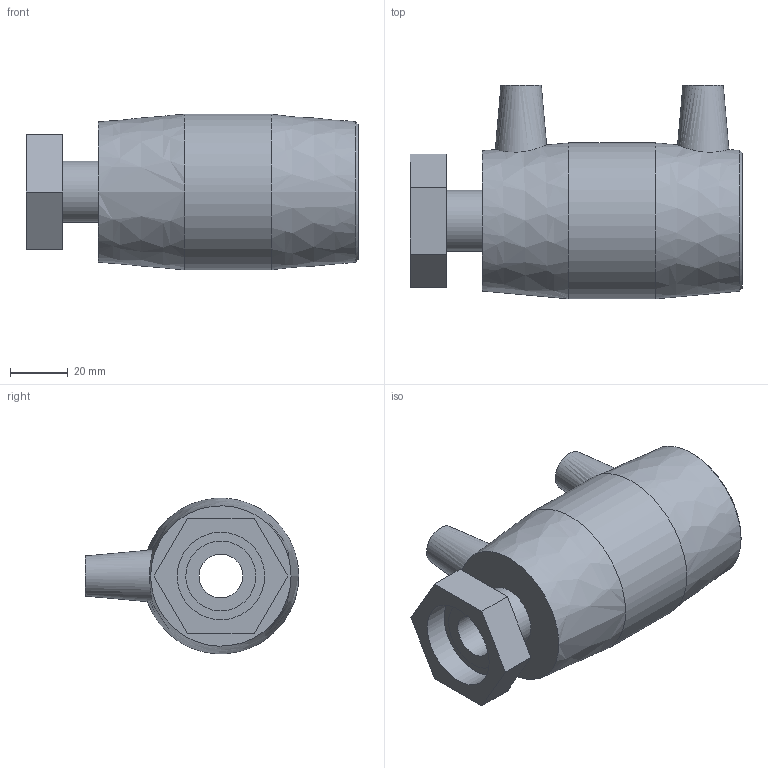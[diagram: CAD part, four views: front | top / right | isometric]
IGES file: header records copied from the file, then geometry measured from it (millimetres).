
Global section: file name: 494104040010; native system: Autodesk Inventor 2026; preprocessor: unknown; author: KIM; date: 20260512.113430; units: millimetre
Bounding box: 115 x 74 x 53.89 mm (x, y, z)
Volume: 108149.4 mm3; surface area: 38425.3 mm2
Topology: 1 solids, 1 shells, 36 faces, 81 edges, 59 vertices
Faces by surface type: bspline 36
